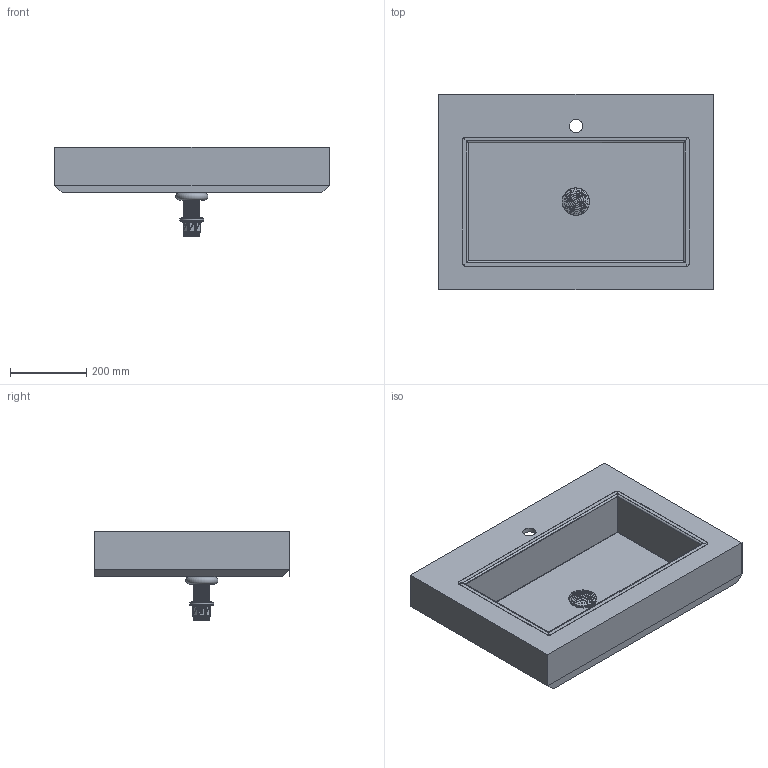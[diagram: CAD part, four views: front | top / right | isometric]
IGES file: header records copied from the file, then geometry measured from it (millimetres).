
Start section: Data from Parasolid IGES Translator 19.0.9, Copyright(c) 2006 Siemens PL M Software. All Rights Reserved.
Global section: file name: noorth-top-H 11,9 D 51,3 W 72_6559.igs; native system: By Siemens PLM Incorporated; preprocessor: XPlus GENERIC/IGES 19.0.9; author: Noname; organization: Noname; date: 20200603.105218; units: metre
Bounding box: 720 x 512 x 235.2 mm (x, y, z)
Volume: 5533278.4 mm3; surface area: 1648512.6 mm2
Topology: 2 solids, 2 shells, 11742 faces, 35143 edges, 35023 vertices
Faces by surface type: extrusion 11618, plane 70, cylinder 28, bspline 20, torus 4, cone 2
Full cylindrical faces by diameter (mm): 34.9 x1, 42 x1, 46 x1, 47.6 x1
